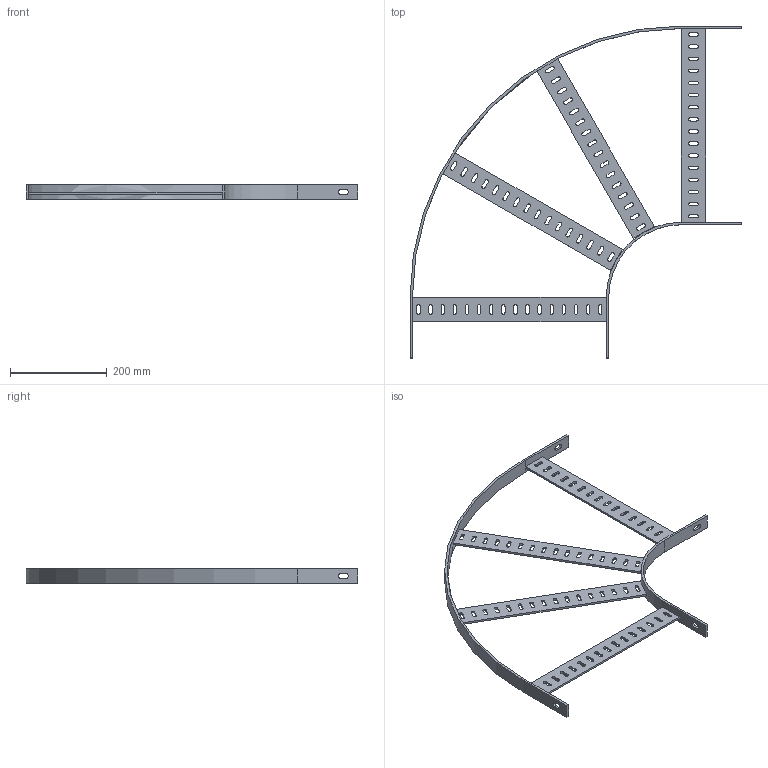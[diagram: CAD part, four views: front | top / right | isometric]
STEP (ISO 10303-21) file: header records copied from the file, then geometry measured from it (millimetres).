
FILE_DESCRIPTION(('Creo Elements/Direct Modeling STEP Export'),'2;1');
FILE_NAME('//pserver/office/EK/ME10-3D/3D-output/SLB 400F.stp','2020-03-10T15:03:48',(''),(''),'PTC Creo Elements/Direct Modeling STEP processor for AP214 (Solid Model)','PTC Creo Elements/Direct Modeling 19.0C 15-Aug-2015 (C) Parametric Technology GmbH','');
FILE_SCHEMA(('AUTOMOTIVE_DESIGN { 1 0 10303 214 1 1 1 1 }'));
Length unit declared in the file: millimetre
Products named in the file (1): SLB_400F
Bounding box: 685 x 685 x 30 mm (x, y, z)
Surface area: 280832.5 mm2 (no closed solid volume)
Topology: 0 solids, 1 shells, 312 faces, 926 edges, 614 vertices
Faces by surface type: plane 172, cylinder 140
Entity records: 10754 total; most frequent: ORIENTED_EDGE 1856, CARTESIAN_POINT 1841, DIRECTION 1824, EDGE_CURVE 924, VECTOR 630, LINE 630, VERTEX_POINT 614, AXIS2_PLACEMENT_3D 597
